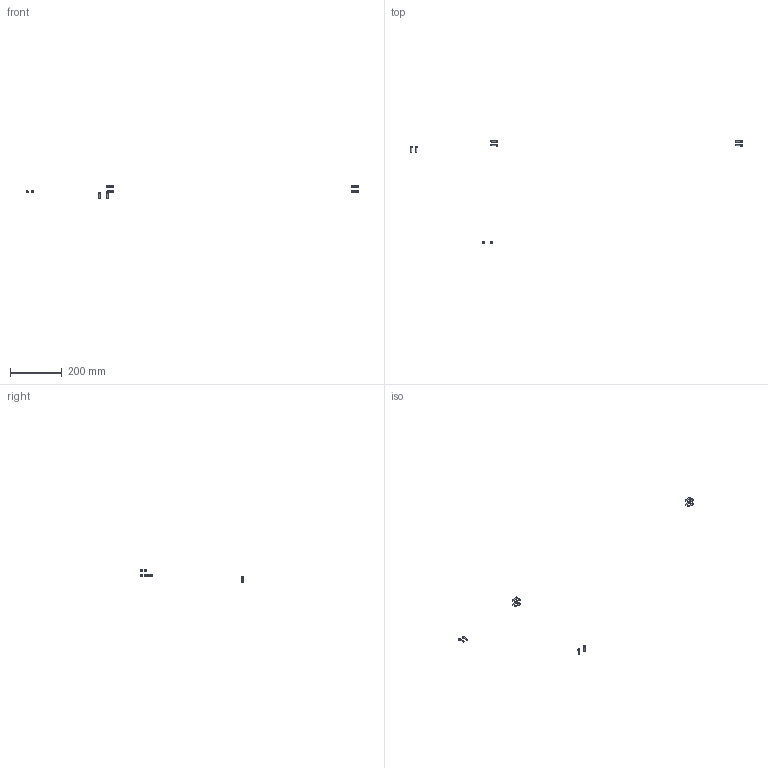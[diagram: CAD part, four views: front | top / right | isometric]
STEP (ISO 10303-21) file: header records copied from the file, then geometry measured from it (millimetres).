
FILE_DESCRIPTION(/* description */ (''),/* implementation_level */ '2;1');
FILE_NAME(/* name */ 'OP287B~1',/* time_stamp */ '2014-02-14T19:48:49+01:00',/* author */ (''),/* organization */ (''),/* preprocessor_version */ 'ST-DEVELOPER v14',/* originating_system */ '',/* authorisation */ '');
FILE_SCHEMA (('AUTOMOTIVE_DESIGN'));
Length unit declared in the file: millimetre
Products named in the file (2): Document; screw DIN912-like, M5x20
Assembly tree (12 placements, depth 2):
  Document
    screw DIN912-like, M5x20  x12
Bounding box: 1289.25 x 401.01 x 51.27 mm (x, y, z)
Volume: 7639.5 mm3; surface area: 7004.6 mm2
Topology: 12 solids, 12 shells, 300 faces, 672 edges, 396 vertices
Faces by surface type: plane 180, bspline 120
Entity records: 1493 total; most frequent: CARTESIAN_POINT 643, B_SPLINE_CURVE_WITH_KNOTS 126, ORIENTED_EDGE 108, PCURVE 108, DEFINITIONAL_REPRESENTATION 108, SURFACE_CURVE 54, EDGE_CURVE 54, DIRECTION 45
